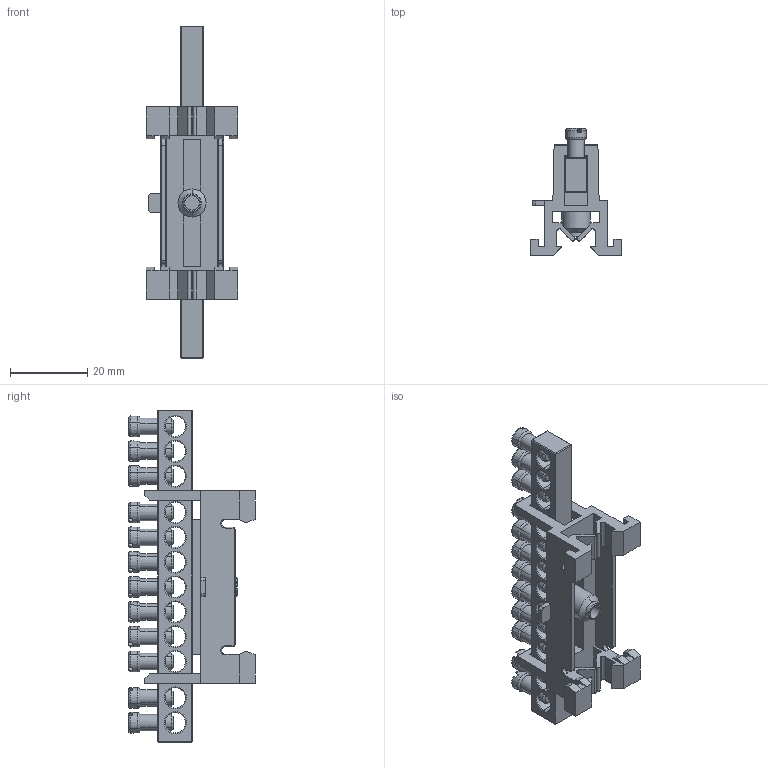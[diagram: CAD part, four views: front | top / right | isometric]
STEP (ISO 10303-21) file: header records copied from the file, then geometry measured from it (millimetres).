
FILE_DESCRIPTION (( 'STEP AP214' ), '1' );
FILE_NAME ('CS-N12.step', '2011-08-01T09:16:02', ( 'Radek Veselý' ), ( 'Siemens and Partners' ), 'SwSTEP 2.0', 'SolidWorks 2006303', '' );
FILE_SCHEMA (( 'AUTOMOTIVE_DESIGN' ));
Length unit declared in the file: millimetre
Products named in the file (1): CS-N12
Bounding box: 23.7 x 32.87 x 86.2 mm (x, y, z)
Volume: 9816.1 mm3; surface area: 12014.8 mm2
Topology: 14 solids, 14 shells, 796 faces, 2076 edges, 1308 vertices
Faces by surface type: plane 424, cylinder 168, torus 130, cone 74
Entity records: 34210 total; most frequent: CARTESIAN_POINT 5793, ORIENTED_EDGE 4152, DIRECTION 4036, EDGE_CURVE 2076, AXIS2_PLACEMENT_3D 1399, VERTEX_POINT 1308, VECTOR 1238, LINE 1238
